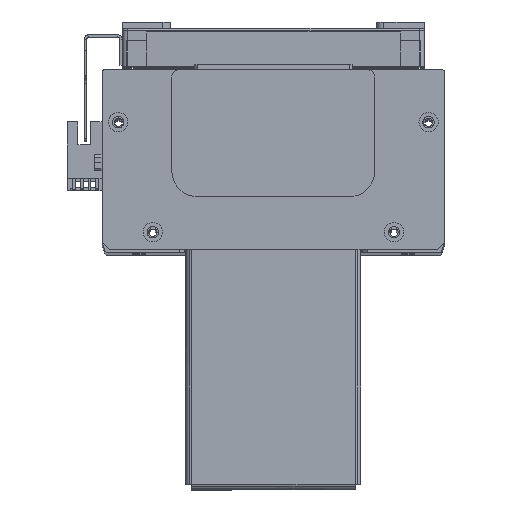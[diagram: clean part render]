
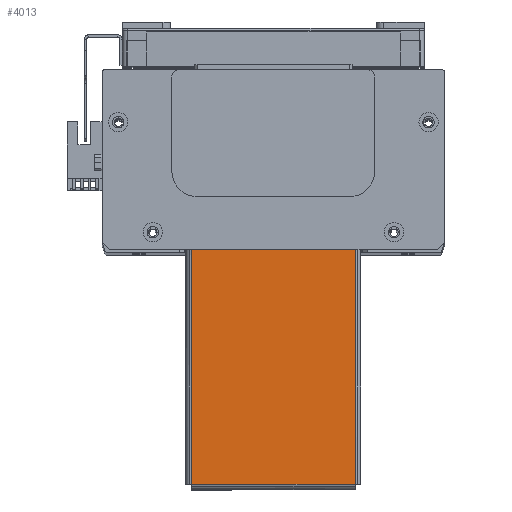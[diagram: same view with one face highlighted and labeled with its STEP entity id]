
A CAD part, top view. The second image highlights one B-rep face of the part: STEP entity #4013.
In plain terms, the highlighted planar face has unit normal (0, 0, 1) as drawn and (0, -1, 0) by its records, which use the part's own axes.
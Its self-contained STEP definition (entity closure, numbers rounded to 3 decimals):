
#4013 = ADVANCED_FACE ( 'NONE', ( #46926 ), #53357, .F. ) ;
#5660 = EDGE_LOOP ( 'NONE', ( #11344, #11348, #11317, #11389 ) ) ;
#6593 = AXIS2_PLACEMENT_3D ( 'NONE', #53344, #53377, #53303 ) ;
#10954 = VERTEX_POINT ( 'NONE', #45245 ) ;
#11317 = ORIENTED_EDGE ( 'NONE', *, *, #41116, .T. ) ;
#11344 = ORIENTED_EDGE ( 'NONE', *, *, #41109, .T. ) ;
#11348 = ORIENTED_EDGE ( 'NONE', *, *, #41024, .F. ) ;
#11389 = ORIENTED_EDGE ( 'NONE', *, *, #41081, .T. ) ;
#11893 = VERTEX_POINT ( 'NONE', #45373 ) ;
#11899 = VERTEX_POINT ( 'NONE', #45312 ) ;
#11903 = VERTEX_POINT ( 'NONE', #45401 ) ;
#14713 = DIRECTION ( 'NONE',  ( 0., 0., -1. ) ) ;
#14724 = CARTESIAN_POINT ( 'NONE',  ( -2., -1.5, 34.5 ) ) ;
#14882 = CARTESIAN_POINT ( 'NONE',  ( -94.763, -1.5, 32.293 ) ) ;
#14910 = DIRECTION ( 'NONE',  ( 0., 0., -1. ) ) ;
#14986 = CARTESIAN_POINT ( 'NONE',  ( 94.793, -1.5, 32.263 ) ) ;
#14994 = DIRECTION ( 'NONE',  ( -1., 0., 0. ) ) ;
#15002 = CARTESIAN_POINT ( 'NONE',  ( -94.793, -1.5, -32.263 ) ) ;
#15044 = DIRECTION ( 'NONE',  ( 1., 0., 0. ) ) ;
#41024 = EDGE_CURVE ( 'NONE', #11893, #11899, #55493, .T. ) ;
#41081 = EDGE_CURVE ( 'NONE', #11903, #10954, #55562, .T. ) ;
#41109 = EDGE_CURVE ( 'NONE', #10954, #11899, #55559, .T. ) ;
#41116 = EDGE_CURVE ( 'NONE', #11893, #11903, #55593, .T. ) ;
#45245 = CARTESIAN_POINT ( 'NONE',  ( -94.763, -1.5, -32.263 ) ) ;
#45312 = CARTESIAN_POINT ( 'NONE',  ( -2., -1.5, -32.263 ) ) ;
#45373 = CARTESIAN_POINT ( 'NONE',  ( -2., -1.5, 32.263 ) ) ;
#45401 = CARTESIAN_POINT ( 'NONE',  ( -94.763, -1.5, 32.263 ) ) ;
#46926 = FACE_OUTER_BOUND ( 'NONE', #5660, .T. ) ;
#53303 = DIRECTION ( 'NONE',  ( 0., 0., 1. ) ) ;
#53344 = CARTESIAN_POINT ( 'NONE',  ( 0., -1.5, 0. ) ) ;
#53357 = PLANE ( 'NONE',  #6593 ) ;
#53377 = DIRECTION ( 'NONE',  ( 0., 1., 0. ) ) ;
#55493 = LINE ( 'NONE', #14724, #55505 ) ;
#55505 = VECTOR ( 'NONE', #14713, 1000. ) ;
#55559 = LINE ( 'NONE', #15002, #55579 ) ;
#55562 = LINE ( 'NONE', #14882, #55582 ) ;
#55579 = VECTOR ( 'NONE', #15044, 1000. ) ;
#55582 = VECTOR ( 'NONE', #14910, 1000. ) ;
#55593 = LINE ( 'NONE', #14986, #55664 ) ;
#55664 = VECTOR ( 'NONE', #14994, 1000. ) ;
